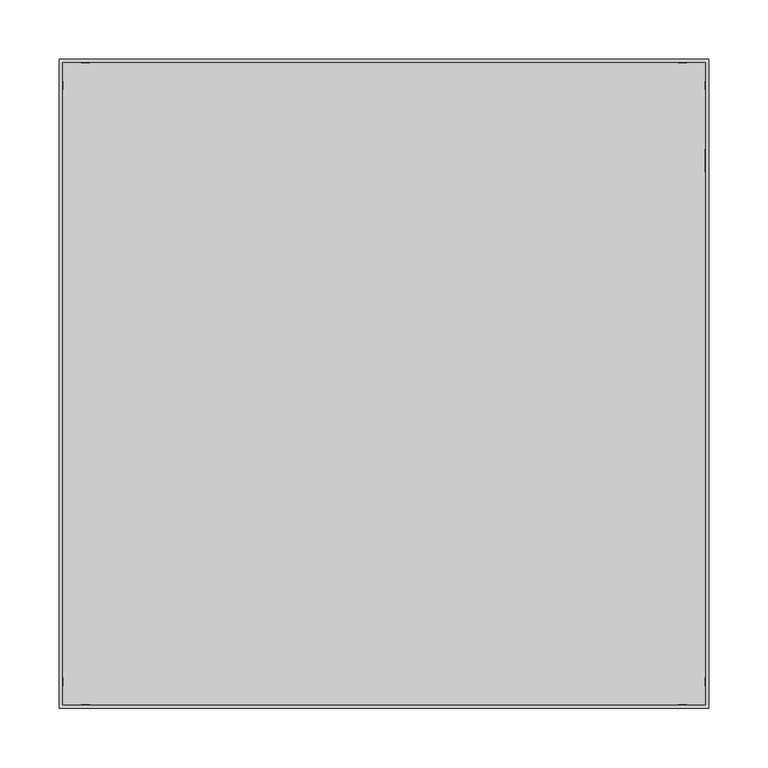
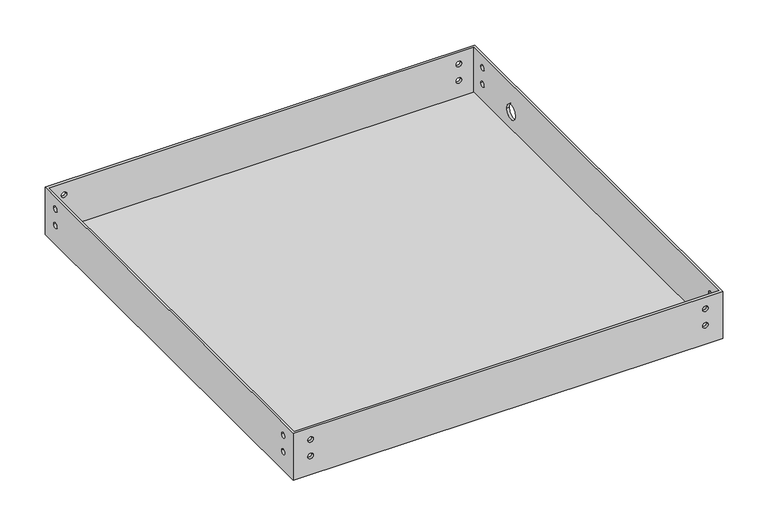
"""IFC4 building model written with IfcOpenShell, lengths in millimetres: proxy geometry, 40 SWHP-C : #40-SWHP-C."""

from ifc_helpers import new_model, si_unit, frame, origin, place, context, project, spatial, polyline, circle_curve, source, transform, mapped, element, save
from ifc_brep_helpers import plane_surface, revolved_surface, advanced_brep


def generic_models_44c01e28(model_context):
    return source(origin(), model_context, "Body", "AdvancedBrep", [
        advanced_brep(
        [(271.065625, -271.065625, 3.175), (271.065625, 271.065625, 3.175), (-271.065625, 271.065625, 3.175), (-271.065625, -271.065625, 3.175), (274.240625, -274.240625, 63.5), (274.240625, 274.240625, 63.5), (-274.240625, 274.240625, 63.5), (-274.240625, -274.240625, 63.5), (271.065625, 271.065625, 63.5), (271.065625, -271.065625, 63.5), (-271.065625, -271.065625, 63.5), (-271.065625, 271.065625, 63.5), (274.240625, -274.240625, 0.0), (-274.240625, -274.240625, 0.0), (-274.240625, 274.240625, 0.0), (274.240625, 274.240625, 0.0), (271.065625, -255.584325, 47.625), (271.065625, -248.446925, 47.625), (271.065625, -255.584325, 25.4), (271.065625, -248.446925, 25.4), (271.065625, 248.446925, 47.625), (271.065625, 255.584325, 47.625), (271.065625, 248.446925, 25.4), (271.065625, 255.584325, 25.4), (271.065625, 198.040625, 25.9953125), (271.065625, 178.990625, 25.9953125), (-255.584325, -271.065625, 47.625), (-248.446925, -271.065625, 47.625), (-255.584325, -271.065625, 25.4), (-248.446925, -271.065625, 25.4), (248.446925, -271.065625, 47.625), (255.584325, -271.065625, 47.625), (248.446925, -271.065625, 25.4), (255.584325, -271.065625, 25.4), (-271.065625, 255.584325, 47.625), (-271.065625, 248.446925, 47.625), (-271.065625, 255.584325, 25.4), (-271.065625, 248.446925, 25.4), (-271.065625, -248.446925, 47.625), (-271.065625, -255.584325, 47.625), (-271.065625, -248.446925, 25.4), (-271.065625, -255.584325, 25.4), (-248.446925, 271.065625, 47.625), (-255.584325, 271.065625, 47.625), (-248.446925, 271.065625, 25.4), (-255.584325, 271.065625, 25.4), (255.584325, 271.065625, 25.4), (248.446925, 271.065625, 25.4), (255.584325, 271.065625, 47.625), (248.446925, 271.065625, 47.625), (274.240625, -248.446925, 47.625), (274.240625, -255.584325, 47.625), (274.240625, -248.446925, 25.4), (274.240625, -255.584325, 25.4), (274.240625, 255.584325, 47.625), (274.240625, 248.446925, 47.625), (274.240625, 255.584325, 25.4), (274.240625, 248.446925, 25.4), (274.240625, 178.990625, 25.9953125), (274.240625, 198.040625, 25.9953125), (-255.584325, 274.240625, 47.625), (-248.446925, 274.240625, 47.625), (-255.584325, 274.240625, 25.4), (-248.446925, 274.240625, 25.4), (248.446925, 274.240625, 25.4), (255.584325, 274.240625, 25.4), (248.446925, 274.240625, 47.625), (255.584325, 274.240625, 47.625), (-274.240625, 248.446925, 47.625), (-274.240625, 255.584325, 47.625), (-274.240625, 248.446925, 25.4), (-274.240625, 255.584325, 25.4), (-274.240625, -255.584325, 47.625), (-274.240625, -248.446925, 47.625), (-274.240625, -255.584325, 25.4), (-274.240625, -248.446925, 25.4), (-248.446925, -274.240625, 47.625), (-255.584325, -274.240625, 47.625), (-248.446925, -274.240625, 25.4), (-255.584325, -274.240625, 25.4), (255.584325, -274.240625, 47.625), (248.446925, -274.240625, 47.625), (255.584325, -274.240625, 25.4), (248.446925, -274.240625, 25.4)],
        [
            (0, 1),
            (1, 2),
            (2, 3),
            (3, 0),
            (4, 5),
            (5, 6),
            (6, 7),
            (7, 4),
            (8, 9),
            (9, 10),
            (10, 11),
            (11, 8),
            (12, 13),
            (13, 14),
            (14, 15),
            (15, 12),
            (8, 1),
            (0, 9),
            (16, 17, circle_curve(frame((271.065625, -252.015625, 47.625), z_axis=(1.0, 0.0, 0.0), x_axis=(0.0, -1.0, 0.0)), 3.5687)),
            (17, 16, circle_curve(frame((271.065625, -252.015625, 47.625), z_axis=(1.0, 0.0, 0.0), x_axis=(0.0, -1.0, 0.0)), 3.5687)),
            (18, 19, circle_curve(frame((271.065625, -252.015625, 25.4), z_axis=(1.0, 0.0, 0.0), x_axis=(0.0, -1.0, 0.0)), 3.5687)),
            (19, 18, circle_curve(frame((271.065625, -252.015625, 25.4), z_axis=(1.0, 0.0, 0.0), x_axis=(0.0, -1.0, 0.0)), 3.5687)),
            (20, 21, circle_curve(frame((271.065625, 252.015625, 47.625), z_axis=(1.0, 0.0, 0.0), x_axis=(0.0, -1.0, 0.0)), 3.5687)),
            (21, 20, circle_curve(frame((271.065625, 252.015625, 47.625), z_axis=(1.0, 0.0, 0.0), x_axis=(0.0, -1.0, 0.0)), 3.5687)),
            (22, 23, circle_curve(frame((271.065625, 252.015625, 25.4), z_axis=(1.0, 0.0, 0.0), x_axis=(0.0, -1.0, 0.0)), 3.5687)),
            (23, 22, circle_curve(frame((271.065625, 252.015625, 25.4), z_axis=(1.0, 0.0, 0.0), x_axis=(0.0, -1.0, 0.0)), 3.5687)),
            (24, 25, circle_curve(frame((271.065625, 188.515625, 25.9953125), z_axis=(1.0, 0.0, 0.0), x_axis=(0.0, 1.0, 0.0)), 9.525)),
            (25, 24, circle_curve(frame((271.065625, 188.515625, 25.9953125), z_axis=(1.0, 0.0, 0.0), x_axis=(0.0, 1.0, 0.0)), 9.525)),
            (3, 10),
            (26, 27, circle_curve(frame((-252.015625, -271.065625, 47.625), z_axis=(0.0, -1.0, 0.0), x_axis=(-1.0, 0.0, 0.0)), 3.5687)),
            (27, 26, circle_curve(frame((-252.015625, -271.065625, 47.625), z_axis=(0.0, -1.0, 0.0), x_axis=(-1.0, 0.0, 0.0)), 3.5687)),
            (28, 29, circle_curve(frame((-252.015625, -271.065625, 25.4), z_axis=(0.0, -1.0, 0.0), x_axis=(-1.0, 0.0, 0.0)), 3.5687)),
            (29, 28, circle_curve(frame((-252.015625, -271.065625, 25.4), z_axis=(0.0, -1.0, 0.0), x_axis=(-1.0, 0.0, 0.0)), 3.5687)),
            (30, 31, circle_curve(frame((252.015625, -271.065625, 47.625), z_axis=(0.0, -1.0, 0.0), x_axis=(-1.0, 0.0, 0.0)), 3.5687)),
            (31, 30, circle_curve(frame((252.015625, -271.065625, 47.625), z_axis=(0.0, -1.0, 0.0), x_axis=(-1.0, 0.0, 0.0)), 3.5687)),
            (32, 33, circle_curve(frame((252.015625, -271.065625, 25.4), z_axis=(0.0, -1.0, 0.0), x_axis=(-1.0, 0.0, 0.0)), 3.5687)),
            (33, 32, circle_curve(frame((252.015625, -271.065625, 25.4), z_axis=(0.0, -1.0, 0.0), x_axis=(-1.0, 0.0, 0.0)), 3.5687)),
            (2, 11),
            (34, 35, circle_curve(frame((-271.065625, 252.015625, 47.625), z_axis=(-1.0, 0.0, 0.0), x_axis=(0.0, -1.0, 0.0)), 3.5687)),
            (35, 34, circle_curve(frame((-271.065625, 252.015625, 47.625), z_axis=(-1.0, 0.0, 0.0), x_axis=(0.0, -1.0, 0.0)), 3.5687)),
            (36, 37, circle_curve(frame((-271.065625, 252.015625, 25.4), z_axis=(-1.0, 0.0, 0.0), x_axis=(0.0, -1.0, 0.0)), 3.5687)),
            (37, 36, circle_curve(frame((-271.065625, 252.015625, 25.4), z_axis=(-1.0, 0.0, 0.0), x_axis=(0.0, -1.0, 0.0)), 3.5687)),
            (38, 39, circle_curve(frame((-271.065625, -252.015625, 47.625), z_axis=(-1.0, 0.0, 0.0), x_axis=(0.0, -1.0, 0.0)), 3.5687)),
            (39, 38, circle_curve(frame((-271.065625, -252.015625, 47.625), z_axis=(-1.0, 0.0, 0.0), x_axis=(0.0, -1.0, 0.0)), 3.5687)),
            (40, 41, circle_curve(frame((-271.065625, -252.015625, 25.4), z_axis=(-1.0, 0.0, 0.0), x_axis=(0.0, -1.0, 0.0)), 3.5687)),
            (41, 40, circle_curve(frame((-271.065625, -252.015625, 25.4), z_axis=(-1.0, 0.0, 0.0), x_axis=(0.0, -1.0, 0.0)), 3.5687)),
            (42, 43, circle_curve(frame((-252.015625, 271.065625, 47.625), z_axis=(0.0, 1.0, 0.0), x_axis=(-1.0, 0.0, 0.0)), 3.5687)),
            (43, 42, circle_curve(frame((-252.015625, 271.065625, 47.625), z_axis=(0.0, 1.0, 0.0), x_axis=(-1.0, 0.0, 0.0)), 3.5687)),
            (44, 45, circle_curve(frame((-252.015625, 271.065625, 25.4), z_axis=(0.0, 1.0, 0.0), x_axis=(-1.0, 0.0, 0.0)), 3.5687)),
            (45, 44, circle_curve(frame((-252.015625, 271.065625, 25.4), z_axis=(0.0, 1.0, 0.0), x_axis=(-1.0, 0.0, 0.0)), 3.5687)),
            (46, 47, circle_curve(frame((252.015625, 271.065625, 25.4), z_axis=(0.0, 1.0, 0.0), x_axis=(-1.0, 0.0, 0.0)), 3.5687)),
            (47, 46, circle_curve(frame((252.015625, 271.065625, 25.4), z_axis=(0.0, 1.0, 0.0), x_axis=(-1.0, 0.0, 0.0)), 3.5687)),
            (48, 49, circle_curve(frame((252.015625, 271.065625, 47.625), z_axis=(0.0, 1.0, 0.0), x_axis=(-1.0, 0.0, 0.0)), 3.5687)),
            (49, 48, circle_curve(frame((252.015625, 271.065625, 47.625), z_axis=(0.0, 1.0, 0.0), x_axis=(-1.0, 0.0, 0.0)), 3.5687)),
            (4, 12),
            (15, 5),
            (50, 51, circle_curve(frame((274.240625, -252.015625, 47.625), z_axis=(-1.0, 0.0, 0.0), x_axis=(0.0, -1.0, 0.0)), 3.5687)),
            (51, 50, circle_curve(frame((274.240625, -252.015625, 47.625), z_axis=(-1.0, 0.0, 0.0), x_axis=(0.0, -1.0, 0.0)), 3.5687)),
            (52, 53, circle_curve(frame((274.240625, -252.015625, 25.4), z_axis=(-1.0, 0.0, 0.0), x_axis=(0.0, -1.0, 0.0)), 3.5687)),
            (53, 52, circle_curve(frame((274.240625, -252.015625, 25.4), z_axis=(-1.0, 0.0, 0.0), x_axis=(0.0, -1.0, 0.0)), 3.5687)),
            (54, 55, circle_curve(frame((274.240625, 252.015625, 47.625), z_axis=(-1.0, 0.0, 0.0), x_axis=(0.0, -1.0, 0.0)), 3.5687)),
            (55, 54, circle_curve(frame((274.240625, 252.015625, 47.625), z_axis=(-1.0, 0.0, 0.0), x_axis=(0.0, -1.0, 0.0)), 3.5687)),
            (56, 57, circle_curve(frame((274.240625, 252.015625, 25.4), z_axis=(-1.0, 0.0, 0.0), x_axis=(0.0, -1.0, 0.0)), 3.5687)),
            (57, 56, circle_curve(frame((274.240625, 252.015625, 25.4), z_axis=(-1.0, 0.0, 0.0), x_axis=(0.0, -1.0, 0.0)), 3.5687)),
            (58, 59, circle_curve(frame((274.240625, 188.515625, 25.9953125), z_axis=(-1.0, 0.0, 0.0), x_axis=(0.0, 1.0, 0.0)), 9.525)),
            (59, 58, circle_curve(frame((274.240625, 188.515625, 25.9953125), z_axis=(-1.0, 0.0, 0.0), x_axis=(0.0, 1.0, 0.0)), 9.525)),
            (14, 6),
            (60, 61, circle_curve(frame((-252.015625, 274.240625, 47.625), z_axis=(0.0, -1.0, 0.0), x_axis=(-1.0, 0.0, 0.0)), 3.5687)),
            (61, 60, circle_curve(frame((-252.015625, 274.240625, 47.625), z_axis=(0.0, -1.0, 0.0), x_axis=(-1.0, 0.0, 0.0)), 3.5687)),
            (62, 63, circle_curve(frame((-252.015625, 274.240625, 25.4), z_axis=(0.0, -1.0, 0.0), x_axis=(-1.0, 0.0, 0.0)), 3.5687)),
            (63, 62, circle_curve(frame((-252.015625, 274.240625, 25.4), z_axis=(0.0, -1.0, 0.0), x_axis=(-1.0, 0.0, 0.0)), 3.5687)),
            (64, 65, circle_curve(frame((252.015625, 274.240625, 25.4), z_axis=(0.0, -1.0, 0.0), x_axis=(-1.0, 0.0, 0.0)), 3.5687)),
            (65, 64, circle_curve(frame((252.015625, 274.240625, 25.4), z_axis=(0.0, -1.0, 0.0), x_axis=(-1.0, 0.0, 0.0)), 3.5687)),
            (66, 67, circle_curve(frame((252.015625, 274.240625, 47.625), z_axis=(0.0, -1.0, 0.0), x_axis=(-1.0, 0.0, 0.0)), 3.5687)),
            (67, 66, circle_curve(frame((252.015625, 274.240625, 47.625), z_axis=(0.0, -1.0, 0.0), x_axis=(-1.0, 0.0, 0.0)), 3.5687)),
            (13, 7),
            (68, 69, circle_curve(frame((-274.240625, 252.015625, 47.625), z_axis=(1.0, 0.0, 0.0), x_axis=(0.0, -1.0, 0.0)), 3.5687)),
            (69, 68, circle_curve(frame((-274.240625, 252.015625, 47.625), z_axis=(1.0, 0.0, 0.0), x_axis=(0.0, -1.0, 0.0)), 3.5687)),
            (70, 71, circle_curve(frame((-274.240625, 252.015625, 25.4), z_axis=(1.0, 0.0, 0.0), x_axis=(0.0, -1.0, 0.0)), 3.5687)),
            (71, 70, circle_curve(frame((-274.240625, 252.015625, 25.4), z_axis=(1.0, 0.0, 0.0), x_axis=(0.0, -1.0, 0.0)), 3.5687)),
            (72, 73, circle_curve(frame((-274.240625, -252.015625, 47.625), z_axis=(1.0, 0.0, 0.0), x_axis=(0.0, -1.0, 0.0)), 3.5687)),
            (73, 72, circle_curve(frame((-274.240625, -252.015625, 47.625), z_axis=(1.0, 0.0, 0.0), x_axis=(0.0, -1.0, 0.0)), 3.5687)),
            (74, 75, circle_curve(frame((-274.240625, -252.015625, 25.4), z_axis=(1.0, 0.0, 0.0), x_axis=(0.0, -1.0, 0.0)), 3.5687)),
            (75, 74, circle_curve(frame((-274.240625, -252.015625, 25.4), z_axis=(1.0, 0.0, 0.0), x_axis=(0.0, -1.0, 0.0)), 3.5687)),
            (76, 77, circle_curve(frame((-252.015625, -274.240625, 47.625), z_axis=(0.0, 1.0, 0.0), x_axis=(-1.0, 0.0, 0.0)), 3.5687)),
            (77, 76, circle_curve(frame((-252.015625, -274.240625, 47.625), z_axis=(0.0, 1.0, 0.0), x_axis=(-1.0, 0.0, 0.0)), 3.5687)),
            (78, 79, circle_curve(frame((-252.015625, -274.240625, 25.4), z_axis=(0.0, 1.0, 0.0), x_axis=(-1.0, 0.0, 0.0)), 3.5687)),
            (79, 78, circle_curve(frame((-252.015625, -274.240625, 25.4), z_axis=(0.0, 1.0, 0.0), x_axis=(-1.0, 0.0, 0.0)), 3.5687)),
            (80, 81, circle_curve(frame((252.015625, -274.240625, 47.625), z_axis=(0.0, 1.0, 0.0), x_axis=(-1.0, 0.0, 0.0)), 3.5687)),
            (81, 80, circle_curve(frame((252.015625, -274.240625, 47.625), z_axis=(0.0, 1.0, 0.0), x_axis=(-1.0, 0.0, 0.0)), 3.5687)),
            (82, 83, circle_curve(frame((252.015625, -274.240625, 25.4), z_axis=(0.0, 1.0, 0.0), x_axis=(-1.0, 0.0, 0.0)), 3.5687)),
            (83, 82, circle_curve(frame((252.015625, -274.240625, 25.4), z_axis=(0.0, 1.0, 0.0), x_axis=(-1.0, 0.0, 0.0)), 3.5687)),
            (34, 69),
            (68, 35),
            (36, 71),
            (70, 37),
            (38, 73),
            (72, 39),
            (40, 75),
            (74, 41),
            (76, 27),
            (26, 77),
            (78, 29),
            (28, 79),
            (80, 31),
            (30, 81),
            (82, 33),
            (32, 83),
            (50, 17),
            (16, 51),
            (52, 19),
            (18, 53),
            (54, 21),
            (20, 55),
            (56, 23),
            (22, 57),
            (42, 61),
            (60, 43),
            (44, 63),
            (62, 45),
            (46, 65),
            (64, 47),
            (48, 67),
            (66, 49),
            (24, 59),
            (58, 25),
        ],
        [
            plane_surface(frame((-271.065625, 271.065625, 3.175), z_axis=(0.0, 0.0, 1.0), x_axis=(-1.0, 0.0, 0.0))),
            plane_surface(frame((271.065625, 271.065625, 63.5), z_axis=(0.0, 0.0, 1.0), x_axis=(0.0, -1.0, 0.0))),
            plane_surface(frame((271.065625, 271.065625, 0.0), z_axis=(0.0, 0.0, -1.0), x_axis=(0.0, 1.0, 0.0))),
            plane_surface(frame((271.065625, 271.065625, 63.5), z_axis=(-1.0, 0.0, 0.0), x_axis=(0.0, 0.0, -1.0))),
            plane_surface(frame((271.065625, -271.065625, 63.5), z_axis=(0.0, 1.0, 0.0), x_axis=(0.0, 0.0, -1.0))),
            plane_surface(frame((-271.065625, -271.065625, 63.5), z_axis=(1.0, 0.0, 0.0), x_axis=(0.0, 0.0, -1.0))),
            plane_surface(frame((-271.065625, 271.065625, 63.5), z_axis=(0.0, -1.0, 0.0), x_axis=(0.0, 0.0, -1.0))),
            plane_surface(frame((274.240625, -274.240625, 63.5), z_axis=(1.0, 0.0, 0.0), x_axis=(0.0, 0.0, -1.0))),
            plane_surface(frame((274.240625, 274.240625, 63.5), z_axis=(0.0, 1.0, 0.0), x_axis=(0.0, 0.0, -1.0))),
            plane_surface(frame((-274.240625, 274.240625, 63.5), z_axis=(-1.0, 0.0, 0.0), x_axis=(0.0, 0.0, -1.0))),
            plane_surface(frame((-274.240625, -274.240625, 63.5), z_axis=(0.0, -1.0, 0.0), x_axis=(0.0, 0.0, -1.0))),
            revolved_surface(polyline([(-274.240625, 248.446925, 47.625), (-271.065625, 248.446925, 47.625)]), (-271.065625, 252.015625, 47.625), (-1.0, 0.0, 0.0)),
            revolved_surface(polyline([(-274.240625, 248.446925, 25.4), (-271.065625, 248.446925, 25.4)]), (-278.914225, 252.015625, 25.4), (-1.0, 0.0, 0.0)),
            revolved_surface(polyline([(-274.240625, -255.584325, 47.625), (-271.065625, -255.584325, 47.625)]), (-271.065625, -252.015625, 47.625), (-1.0, 0.0, 0.0)),
            revolved_surface(polyline([(-274.240625, -255.584325, 25.4), (-271.065625, -255.584325, 25.4)]), (-278.914225, -252.015625, 25.4), (-1.0, 0.0, 0.0)),
            revolved_surface(polyline([(-255.584325, -271.065625, 47.625), (-255.584325, -274.240625, 47.625)]), (-252.015625, -278.914225, 47.625), (0.0, 1.0, 0.0)),
            revolved_surface(polyline([(-255.584325, -271.065625, 25.4), (-255.584325, -274.240625, 25.4)]), (-252.015625, -278.914225, 25.4), (0.0, 1.0, 0.0)),
            revolved_surface(polyline([(248.446925, -271.065625, 47.625), (248.446925, -274.240625, 47.625)]), (252.015625, -278.914225, 47.625), (0.0, 1.0, 0.0)),
            revolved_surface(polyline([(248.446925, -271.065625, 25.4), (248.446925, -274.240625, 25.4)]), (252.015625, -278.914225, 25.4), (0.0, 1.0, 0.0)),
            revolved_surface(polyline([(271.065625, -255.584325, 47.625), (274.240625, -255.584325, 47.625)]), (278.914225, -252.015625, 47.625), (-1.0, 0.0, 0.0)),
            revolved_surface(polyline([(271.065625, -255.584325, 25.4), (274.240625, -255.584325, 25.4)]), (278.914225, -252.015625, 25.4), (-1.0, 0.0, 0.0)),
            revolved_surface(polyline([(271.065625, 248.446925, 47.625), (274.240625, 248.446925, 47.625)]), (278.914225, 252.015625, 47.625), (-1.0, 0.0, 0.0)),
            revolved_surface(polyline([(271.065625, 248.446925, 25.4), (274.240625, 248.446925, 25.4)]), (278.914225, 252.015625, 25.4), (-1.0, 0.0, 0.0)),
            revolved_surface(polyline([(-255.584325, 274.240625, 47.625), (-255.584325, 271.065625, 47.625)]), (-252.015625, 271.065625, 47.625), (0.0, 1.0, 0.0)),
            revolved_surface(polyline([(-255.584325, 274.240625, 25.4), (-255.584325, 271.065625, 25.4)]), (-252.015625, 278.914225, 25.4), (0.0, 1.0, 0.0)),
            revolved_surface(polyline([(248.446925, 274.240625, 25.4), (248.446925, 271.065625, 25.4)]), (252.015625, 271.065625, 25.4), (0.0, 1.0, 0.0)),
            revolved_surface(polyline([(248.446925, 274.240625, 47.625), (248.446925, 271.065625, 47.625)]), (252.015625, 278.914225, 47.625), (0.0, 1.0, 0.0)),
            revolved_surface(polyline([(274.240625, 198.040625, 25.9953125), (271.065625, 198.040625, 25.9953125)]), (271.065625, 188.515625, 25.9953125), (1.0, 0.0, 0.0)),
        ],
        [
            (0, [[1, 2, 3, 4]]),
            (1, [[5, 6, 7, 8], [9, 10, 11, 12]]),
            (2, [[13, 14, 15, 16]]),
            (3, [[-9, 17, -1, 18], [19, 20], [21, 22], [23, 24], [25, 26], [27, 28]]),
            (4, [[-10, -18, -4, 29], [30, 31], [32, 33], [34, 35], [36, 37]]),
            (5, [[-11, -29, -3, 38], [39, 40], [41, 42], [43, 44], [45, 46]]),
            (6, [[-12, -38, -2, -17], [47, 48], [49, 50], [51, 52], [53, 54]]),
            (7, [[-5, 55, -16, 56], [57, 58], [59, 60], [61, 62], [63, 64], [65, 66]]),
            (8, [[-6, -56, -15, 67], [68, 69], [70, 71], [72, 73], [74, 75]]),
            (9, [[-7, -67, -14, 76], [77, 78], [79, 80], [81, 82], [83, 84]]),
            (10, [[-8, -76, -13, -55], [85, 86], [87, 88], [89, 90], [91, 92]]),
            (11, [[93, -77, 94, -39]]),
            (11, [[-93, -40, -94, -78]]),
            (12, [[95, -79, 96, -41]]),
            (12, [[-95, -42, -96, -80]]),
            (13, [[97, -81, 98, -43]]),
            (13, [[-97, -44, -98, -82]]),
            (14, [[99, -83, 100, -45]]),
            (14, [[-99, -46, -100, -84]]),
            (15, [[101, -30, 102, -85]]),
            (15, [[-101, -86, -102, -31]]),
            (16, [[103, -32, 104, -87]]),
            (16, [[-103, -88, -104, -33]]),
            (17, [[105, -34, 106, -89]]),
            (17, [[-105, -90, -106, -35]]),
            (18, [[107, -36, 108, -91]]),
            (18, [[-107, -92, -108, -37]]),
            (19, [[109, -19, 110, -57]]),
            (19, [[-109, -58, -110, -20]]),
            (20, [[111, -21, 112, -59]]),
            (20, [[-111, -60, -112, -22]]),
            (21, [[113, -23, 114, -61]]),
            (21, [[-113, -62, -114, -24]]),
            (22, [[115, -25, 116, -63]]),
            (22, [[-115, -64, -116, -26]]),
            (23, [[117, -68, 118, -47]]),
            (23, [[-117, -48, -118, -69]]),
            (24, [[119, -70, 120, -49]]),
            (24, [[-119, -50, -120, -71]]),
            (25, [[121, -72, 122, -51]]),
            (25, [[-121, -52, -122, -73]]),
            (26, [[123, -74, 124, -53]]),
            (26, [[-123, -54, -124, -75]]),
            (27, [[125, -65, 126, -27]]),
            (27, [[-125, -28, -126, -66]]),
        ],
    ),
    ])


if __name__ == "__main__":
    model = new_model("IFC4")
    model_context = context("Model", 3, world=origin())
    ifc_project = project(units=[si_unit("LENGTHUNIT", "METRE", prefix="MILLI")], contexts=[model_context])
    site = spatial("IfcSite", under=ifc_project)
    building = spatial("IfcBuilding", under=site)
    placement = place(None, origin())
    generic_models_shape = generic_models_44c01e28(model_context)
    element("IfcBuildingElementProxy", 1, Name="40 SWHP-C : #40-SWHP-C", ObjectType="40 SWHP-C : #40-SWHP-C", at=placement, inside=building, context=model_context, shape_type="MappedRepresentation", body=[
        mapped(generic_models_shape, transform((0.0, 0.0, 0.0), x_axis=(1.0, 0.0, 0.0), y_axis=(0.0, 1.0, 0.0), z_axis=(0.0, 0.0, 1.0))),
    ])
    save(model, "model.ifc")
